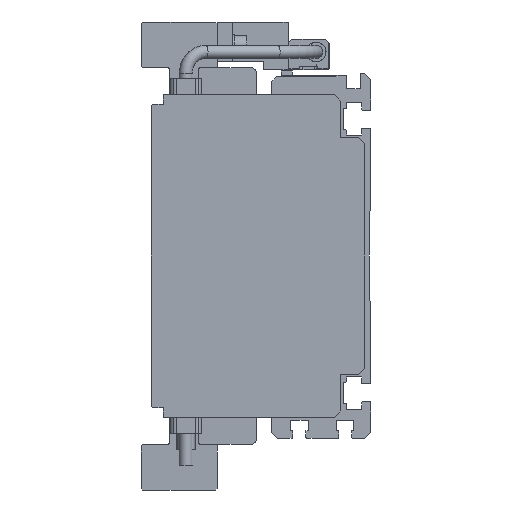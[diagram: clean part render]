
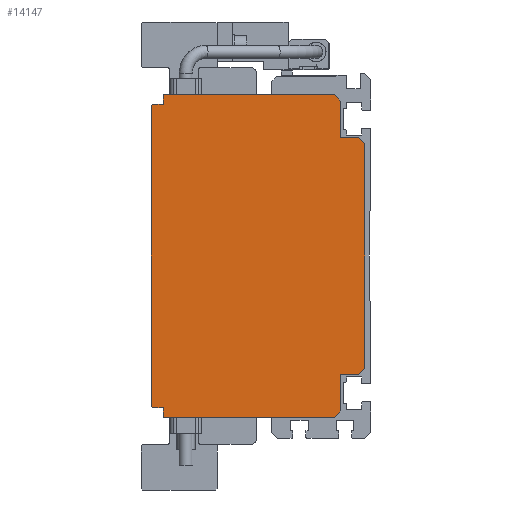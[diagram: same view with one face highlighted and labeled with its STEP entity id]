
A CAD part, left-side view. The second image highlights one B-rep face of the part: STEP entity #14147.
In plain terms, the highlighted planar face has unit normal (-1, 0, 0).
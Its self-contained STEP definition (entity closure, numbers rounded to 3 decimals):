
#1635=ORIENTED_EDGE('',*,*,#5234,.F.);
#1636=ORIENTED_EDGE('',*,*,#5279,.F.);
#1637=ORIENTED_EDGE('',*,*,#5276,.F.);
#1638=ORIENTED_EDGE('',*,*,#5273,.F.);
#1639=ORIENTED_EDGE('',*,*,#5270,.F.);
#1640=ORIENTED_EDGE('',*,*,#5265,.F.);
#1641=ORIENTED_EDGE('',*,*,#5262,.F.);
#1642=ORIENTED_EDGE('',*,*,#5259,.F.);
#1643=ORIENTED_EDGE('',*,*,#5256,.F.);
#1644=ORIENTED_EDGE('',*,*,#5254,.F.);
#1645=ORIENTED_EDGE('',*,*,#5252,.F.);
#1646=ORIENTED_EDGE('',*,*,#5250,.F.);
#1647=ORIENTED_EDGE('',*,*,#5248,.F.);
#1648=ORIENTED_EDGE('',*,*,#5246,.F.);
#1649=ORIENTED_EDGE('',*,*,#5244,.F.);
#1650=ORIENTED_EDGE('',*,*,#5242,.F.);
#1651=ORIENTED_EDGE('',*,*,#5240,.F.);
#1652=ORIENTED_EDGE('',*,*,#5238,.F.);
#5234=EDGE_CURVE('',#7131,#7132,#8570,.T.);
#5238=EDGE_CURVE('',#7132,#7134,#8574,.T.);
#5240=EDGE_CURVE('',#7134,#7135,#8576,.T.);
#5242=EDGE_CURVE('',#7135,#7136,#8578,.T.);
#5244=EDGE_CURVE('',#7136,#7137,#8580,.T.);
#5246=EDGE_CURVE('',#7137,#7138,#8582,.T.);
#5248=EDGE_CURVE('',#7138,#7139,#8584,.T.);
#5250=EDGE_CURVE('',#7139,#7140,#8586,.T.);
#5252=EDGE_CURVE('',#7140,#7141,#8588,.T.);
#5254=EDGE_CURVE('',#7141,#7142,#8590,.T.);
#5256=EDGE_CURVE('',#7142,#7143,#8592,.T.);
#5259=EDGE_CURVE('',#7143,#7145,#8595,.T.);
#5262=EDGE_CURVE('',#7145,#7147,#8598,.T.);
#5265=EDGE_CURVE('',#7147,#7149,#8601,.T.);
#5270=EDGE_CURVE('',#7149,#7153,#8604,.T.);
#5273=EDGE_CURVE('',#7153,#7155,#8607,.T.);
#5276=EDGE_CURVE('',#7155,#7157,#8610,.T.);
#5279=EDGE_CURVE('',#7157,#7131,#8613,.T.);
#7131=VERTEX_POINT('',#21092);
#7132=VERTEX_POINT('',#21093);
#7134=VERTEX_POINT('',#21100);
#7135=VERTEX_POINT('',#21104);
#7136=VERTEX_POINT('',#21108);
#7137=VERTEX_POINT('',#21112);
#7138=VERTEX_POINT('',#21116);
#7139=VERTEX_POINT('',#21120);
#7140=VERTEX_POINT('',#21124);
#7141=VERTEX_POINT('',#21128);
#7142=VERTEX_POINT('',#21132);
#7143=VERTEX_POINT('',#21136);
#7145=VERTEX_POINT('',#21142);
#7147=VERTEX_POINT('',#21148);
#7149=VERTEX_POINT('',#21154);
#7153=VERTEX_POINT('',#21164);
#7155=VERTEX_POINT('',#21170);
#7157=VERTEX_POINT('',#21176);
#8570=LINE('',#21091,#10161);
#8574=LINE('',#21099,#10165);
#8576=LINE('',#21103,#10167);
#8578=LINE('',#21107,#10169);
#8580=LINE('',#21111,#10171);
#8582=LINE('',#21115,#10173);
#8584=LINE('',#21119,#10175);
#8586=LINE('',#21123,#10177);
#8588=LINE('',#21127,#10179);
#8590=LINE('',#21131,#10181);
#8592=LINE('',#21135,#10183);
#8595=LINE('',#21141,#10186);
#8598=LINE('',#21147,#10189);
#8601=LINE('',#21153,#10192);
#8604=LINE('',#21163,#10195);
#8607=LINE('',#21169,#10198);
#8610=LINE('',#21175,#10201);
#8613=LINE('',#21181,#10204);
#10161=VECTOR('',#16892,1000.);
#10165=VECTOR('',#16898,1000.);
#10167=VECTOR('',#16902,1000.);
#10169=VECTOR('',#16906,1000.);
#10171=VECTOR('',#16910,1000.);
#10173=VECTOR('',#16914,1000.);
#10175=VECTOR('',#16918,1000.);
#10177=VECTOR('',#16922,1000.);
#10179=VECTOR('',#16926,1000.);
#10181=VECTOR('',#16930,1000.);
#10183=VECTOR('',#16934,1000.);
#10186=VECTOR('',#16939,1000.);
#10189=VECTOR('',#16944,1000.);
#10192=VECTOR('',#16949,1000.);
#10195=VECTOR('',#16958,1000.);
#10198=VECTOR('',#16963,1000.);
#10201=VECTOR('',#16968,1000.);
#10204=VECTOR('',#16973,1000.);
#11538=EDGE_LOOP('',(#1635,#1636,#1637,#1638,#1639,#1640,#1641,#1642,#1643,
#1644,#1645,#1646,#1647,#1648,#1649,#1650,#1651,#1652));
#12561=FACE_BOUND('',#11538,.T.);
#13541=PLANE('',#15074);
#14147=ADVANCED_FACE('',(#12561),#13541,.F.);
#15074=AXIS2_PLACEMENT_3D('',#21186,#16979,#16980);
#16892=DIRECTION('',(0.,-1.,0.));
#16898=DIRECTION('',(0.,-0.707,-0.707));
#16902=DIRECTION('',(0.,0.,-1.));
#16906=DIRECTION('',(0.,-1.,0.));
#16910=DIRECTION('',(0.,-0.707,-0.707));
#16914=DIRECTION('',(0.,0.,-1.));
#16918=DIRECTION('',(0.,0.707,-0.707));
#16922=DIRECTION('',(0.,1.,0.));
#16926=DIRECTION('',(0.,0.,-1.));
#16930=DIRECTION('',(0.,0.707,-0.707));
#16934=DIRECTION('',(0.,1.,0.));
#16939=DIRECTION('',(0.,0.,1.));
#16944=DIRECTION('',(0.,1.,0.));
#16949=DIRECTION('',(0.,0.707,0.707));
#16958=DIRECTION('',(0.,0.,1.));
#16963=DIRECTION('',(0.,-0.707,0.707));
#16968=DIRECTION('',(0.,-1.,0.));
#16973=DIRECTION('',(0.,0.,1.));
#16979=DIRECTION('',(1.,0.,0.));
#16980=DIRECTION('',(0.,0.,-1.));
#21091=CARTESIAN_POINT('',(-524.,68.3,53.));
#21092=CARTESIAN_POINT('',(-524.,68.3,53.));
#21093=CARTESIAN_POINT('',(-524.,12.,53.));
#21099=CARTESIAN_POINT('',(-524.,12.,53.));
#21100=CARTESIAN_POINT('',(-524.,10.,51.));
#21103=CARTESIAN_POINT('',(-524.,10.,51.));
#21104=CARTESIAN_POINT('',(-524.,10.,39.));
#21107=CARTESIAN_POINT('',(-524.,10.,39.));
#21108=CARTESIAN_POINT('',(-524.,4.,39.));
#21111=CARTESIAN_POINT('',(-524.,4.,39.));
#21112=CARTESIAN_POINT('',(-524.,2.,37.));
#21115=CARTESIAN_POINT('',(-524.,2.,37.));
#21116=CARTESIAN_POINT('',(-524.,2.,-37.));
#21119=CARTESIAN_POINT('',(-524.,2.,-37.));
#21120=CARTESIAN_POINT('',(-524.,4.,-39.));
#21123=CARTESIAN_POINT('',(-524.,4.,-39.));
#21124=CARTESIAN_POINT('',(-524.,10.,-39.));
#21127=CARTESIAN_POINT('',(-524.,10.,-39.));
#21128=CARTESIAN_POINT('',(-524.,10.,-51.));
#21131=CARTESIAN_POINT('',(-524.,10.,-51.));
#21132=CARTESIAN_POINT('',(-524.,12.,-53.));
#21135=CARTESIAN_POINT('',(-524.,12.,-53.));
#21136=CARTESIAN_POINT('',(-524.,68.3,-53.));
#21141=CARTESIAN_POINT('',(-524.,68.3,-53.));
#21142=CARTESIAN_POINT('',(-524.,68.3,-50.));
#21147=CARTESIAN_POINT('',(-524.,68.3,-50.));
#21148=CARTESIAN_POINT('',(-524.,71.8,-50.));
#21153=CARTESIAN_POINT('',(-524.,71.8,-50.));
#21154=CARTESIAN_POINT('',(-524.,72.3,-49.5));
#21163=CARTESIAN_POINT('',(-524.,72.3,-49.5));
#21164=CARTESIAN_POINT('',(-524.,72.3,49.5));
#21169=CARTESIAN_POINT('',(-524.,72.3,49.5));
#21170=CARTESIAN_POINT('',(-524.,71.8,50.));
#21175=CARTESIAN_POINT('',(-524.,71.8,50.));
#21176=CARTESIAN_POINT('',(-524.,68.3,50.));
#21181=CARTESIAN_POINT('',(-524.,68.3,50.));
#21186=CARTESIAN_POINT('',(-524.,0.,0.));
